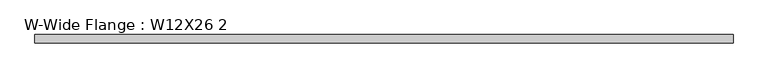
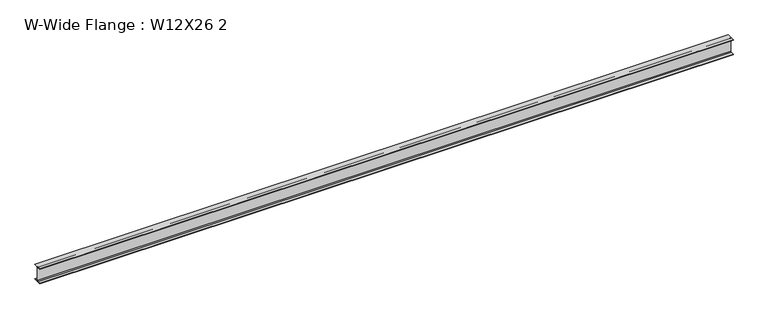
"""IFC4 building model written with IfcOpenShell, lengths in millimetres: beam geometry, W-Wide Flange : W12X26 2."""

from ifc_helpers import new_model, si_unit, point, frame, frame_2d, origin, place, context, project, spatial, polyline, circle_curve, trimmed, segment, composite_curve, outline, extrude, source, transform, mapped, element, save


def w_wide_flange_w12x26_2_69ed9353(model_context):
    return source(origin(), model_context, "Body", "SweptSolid", [
        extrude(outline(composite_curve([segment(polyline([(82.4011719, -145.5539063), (82.4011719, -155.178125), (-82.4011719, -155.178125), (-82.4011719, -145.5539063), (-20.2902344, -145.5539063)]), True, "CONTINUOUS"), segment(trimmed(circle_curve(frame_2d((-20.2902344, -128.190625)), 17.3632812), [point((-20.2902344, -145.5539063))], [point((-2.9269531, -128.190625))], True, "CARTESIAN"), True, "CONTINUOUS"), segment(polyline([(-2.9269531, -128.190625), (-2.9269531, 128.190625)]), True, "CONTINUOUS"), segment(trimmed(circle_curve(frame_2d((-20.2902344, 128.190625)), 17.3632812), [point((-2.9269531, 128.190625))], [point((-20.2902344, 145.5539062))], True, "CARTESIAN"), True, "CONTINUOUS"), segment(polyline([(-20.2902344, 145.5539062), (-82.4011719, 145.5539062), (-82.4011719, 155.178125), (82.4011719, 155.178125), (82.4011719, 145.5539062), (20.2902344, 145.5539062)]), True, "CONTINUOUS"), segment(trimmed(circle_curve(frame_2d((20.2902344, 128.190625)), 17.3632812), [point((20.2902344, 145.5539062))], [point((2.9269531, 128.190625))], True, "CARTESIAN"), True, "CONTINUOUS"), segment(polyline([(2.9269531, 128.190625), (2.9269531, -128.190625)]), True, "CONTINUOUS"), segment(trimmed(circle_curve(frame_2d((20.2902344, -128.190625)), 17.3632812), [point((2.9269531, -128.190625))], [point((20.2902344, -145.5539063))], True, "CARTESIAN"), True, "CONTINUOUS"), segment(polyline([(20.2902344, -145.5539063), (82.4011719, -145.5539063)]), True, "CONTINUOUS")], self_intersect=False)), frame((-6794.9960937, 0.0, 0.0), z_axis=(1.0, 0.0, 0.0), x_axis=(0.0, 1.0, 0.0)), (0.0, 0.0, 1.0), 13589.9921875),
    ])


if __name__ == "__main__":
    model = new_model("IFC4")
    model_context = context("Model", 3, world=origin())
    ifc_project = project(units=[si_unit("LENGTHUNIT", "METRE", prefix="MILLI")], contexts=[model_context])
    site = spatial("IfcSite", under=ifc_project)
    building = spatial("IfcBuilding", under=site)
    placement = place(None, origin())
    w_wide_flange_w12x26_2_shape = w_wide_flange_w12x26_2_69ed9353(model_context)
    element("IfcBeam", 1, ObjectType="W-Wide Flange : W12X26 2", at=placement, inside=building, context=model_context, shape_type="MappedRepresentation", body=[
        mapped(w_wide_flange_w12x26_2_shape, transform((0.0, 0.0, 0.0), x_axis=(1.0, 0.0, 0.0), y_axis=(0.0, 1.0, 0.0), z_axis=(0.0, 0.0, 1.0))),
    ])
    save(model, "model.ifc")
